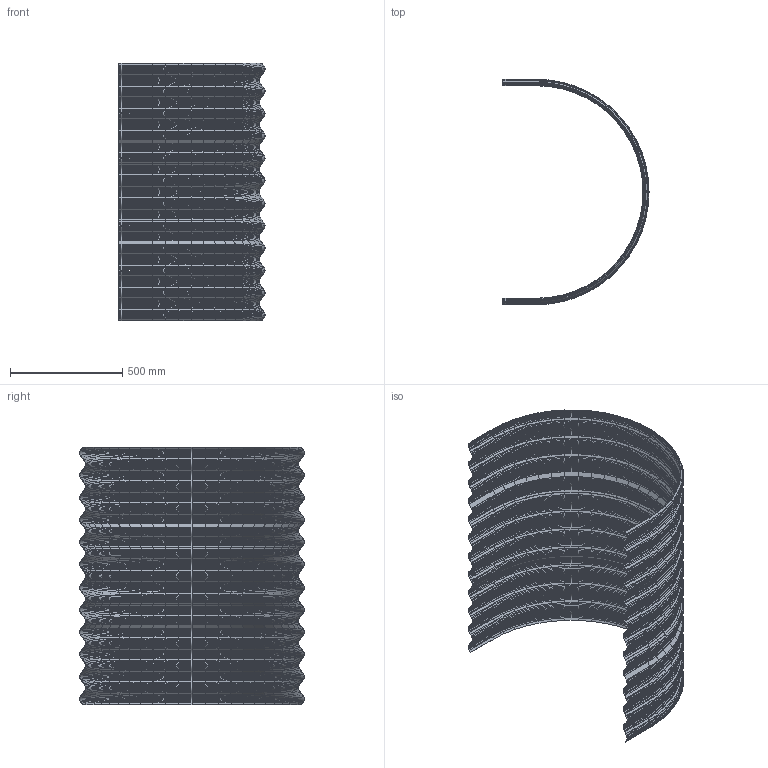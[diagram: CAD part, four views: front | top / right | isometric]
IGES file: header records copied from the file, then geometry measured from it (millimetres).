
Global section: file name: Filename.iges; native system: Open CASCADE 7.0; preprocessor: Open CASCADE IGES processor 7.0; author: gholl; date: 20220902.092058; units: millimetre
Bounding box: 651.99 x 1003.99 x 1150.38 mm (x, y, z)
Surface area: 4850334.6 mm2 (no closed solid volume)
Topology: 0 solids, 0 shells, 12972 faces, 53156 edges, 53156 vertices
Faces by surface type: plane 12950, revolution 22
